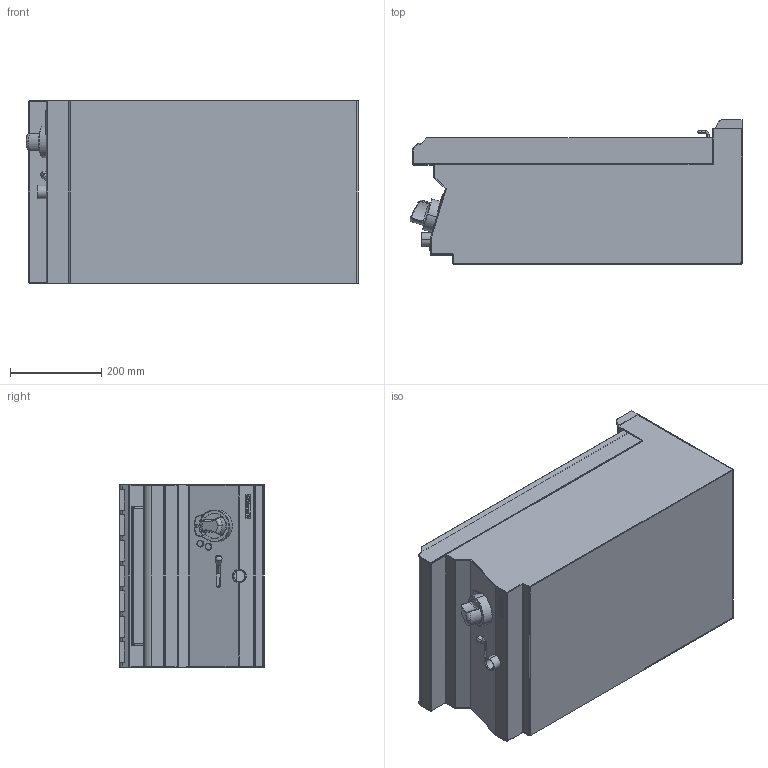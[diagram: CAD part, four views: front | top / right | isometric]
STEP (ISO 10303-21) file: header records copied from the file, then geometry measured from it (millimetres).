
FILE_DESCRIPTION (( 'STEP AP214' ), '1' );
FILE_NAME ('pres-C7FE1340.STEP', '2025-04-08T08:48:56', ( '' ), ( '' ), 'SwSTEP 2.0', 'SolidWorks 2025', '' );
FILE_SCHEMA (( 'AUTOMOTIVE_DESIGN' ));
Length unit declared in the file: millimetre
Products named in the file (1): pres-C7FE1340
Bounding box: 729.46 x 317 x 400 mm (x, y, z)
Volume: 3154807.4 mm3; surface area: 3008190.9 mm2
Topology: 19 solids, 19 shells, 779 faces, 1915 edges, 1160 vertices
Faces by surface type: plane 471, cylinder 229, bspline 46, torus 31, sphere 2
Entity records: 26678 total; most frequent: CARTESIAN_POINT 6373, ORIENTED_EDGE 3818, DIRECTION 3596, EDGE_CURVE 1909, VECTOR 1280, LINE 1280, VERTEX_POINT 1158, AXIS2_PLACEMENT_3D 1158
